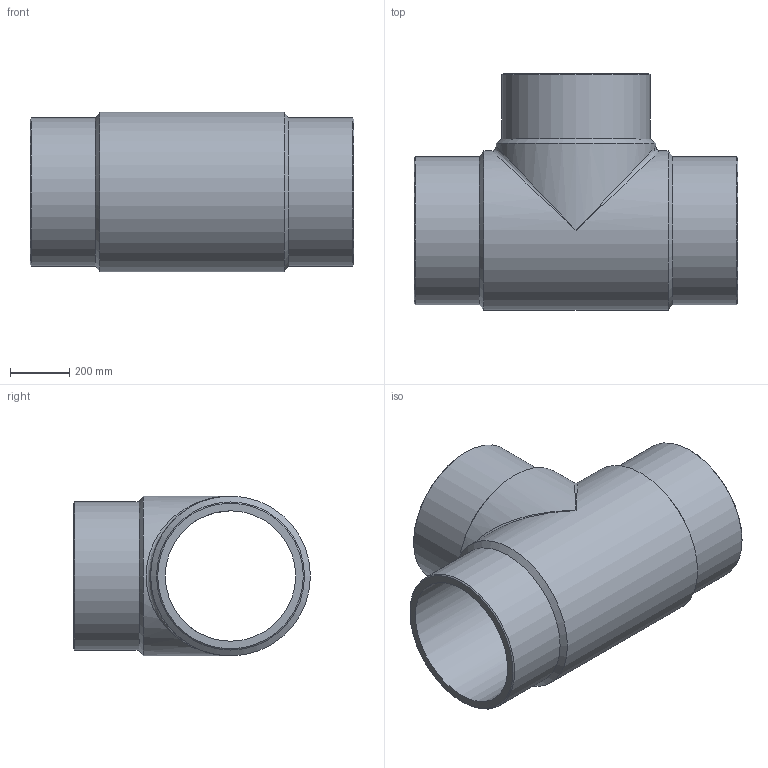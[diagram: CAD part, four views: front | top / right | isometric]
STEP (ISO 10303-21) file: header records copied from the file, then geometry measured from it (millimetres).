
FILE_DESCRIPTION(/* description */ ('Unknown'),/* implementation_level */ '2;1');
FILE_NAME(/* name */ 'TP500B',/* time_stamp */ '2022-06-06T17:18:49+02:00',/* author */ ('Unknown'),/* organization */ ('Unknown'),/* preprocessor_version */ 'ST-DEVELOPER v18.102',/* originating_system */ 'Solid Edge',/* authorisation */ 'Unknown');
FILE_SCHEMA (('AUTOMOTIVE_DESIGN {1 0 10303 214 3 1 1}'));
Length unit declared in the file: millimetre
Products named in the file (1): TP500B
Bounding box: 1094 x 800 x 540 mm (x, y, z)
Volume: 77935737.9 mm3; surface area: 4110680.5 mm2
Topology: 1 solids, 1 shells, 18 faces, 44 edges, 23 vertices
Faces by surface type: cylinder 7, cone 6, plane 3, bspline 2
Full cylindrical faces by diameter (mm): 440.6 x2, 500 x3, 540 x2
Entity records: 528 total; most frequent: CARTESIAN_POINT 171, DIRECTION 76, ORIENTED_EDGE 42, AXIS2_PLACEMENT_3D 38, EDGE_LOOP 36, FACE_BOUND 36, EDGE_CURVE 21, VERTEX_POINT 19
